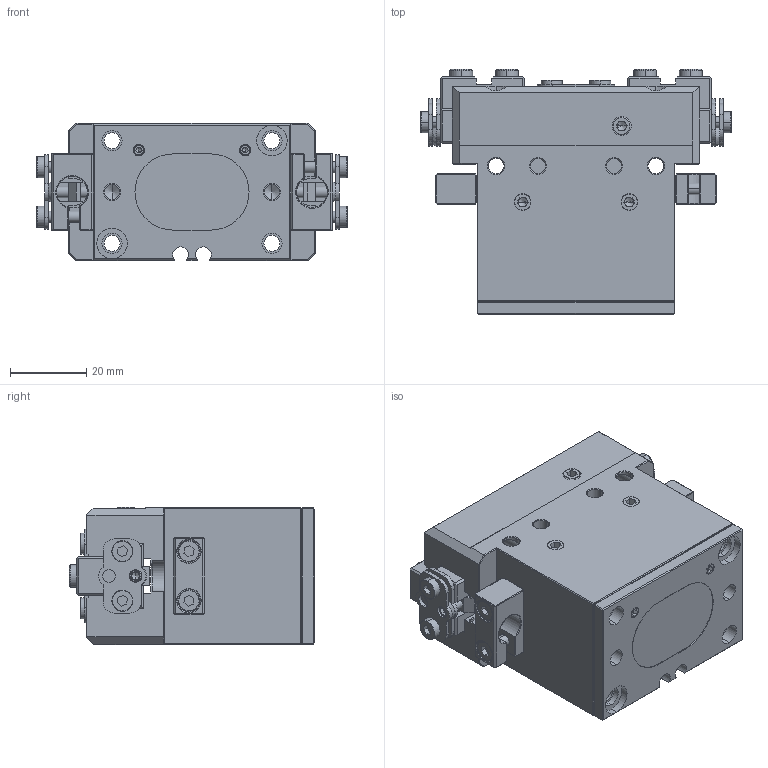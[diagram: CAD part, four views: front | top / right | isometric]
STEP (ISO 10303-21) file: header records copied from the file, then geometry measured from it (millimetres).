
FILE_DESCRIPTION (( 'STEP AP203' ), '1' );
FILE_NAME ('EZ6-2-NO.STEP', '2026-09-23T06:54:35', ( '' ), ( '' ), 'SwSTEP 2.0', 'SolidWorks 2026', '' );
FILE_SCHEMA (( 'CONFIG_CONTROL_DESIGN' ));
Length unit declared in the file: millimetre
Products named in the file (1): EZ6-2-NO
Bounding box: 81.48 x 64.4 x 36 mm (x, y, z)
Volume: 112462.8 mm3; surface area: 43451.7 mm2
Topology: 37 solids, 37 shells, 1488 faces, 3818 edges, 2413 vertices
Faces by surface type: plane 760, cylinder 383, cone 183, bspline 162
Entity records: 50437 total; most frequent: CARTESIAN_POINT 15043, ORIENTED_EDGE 7498, DIRECTION 7017, EDGE_CURVE 3749, VERTEX_POINT 2413, AXIS2_PLACEMENT_3D 2347, LINE 2323, VECTOR 2323
